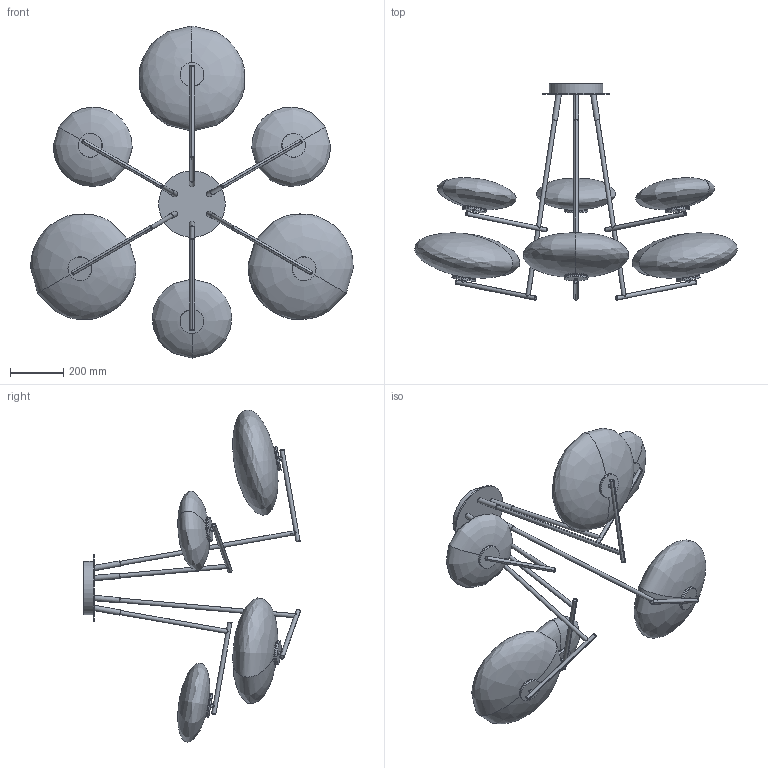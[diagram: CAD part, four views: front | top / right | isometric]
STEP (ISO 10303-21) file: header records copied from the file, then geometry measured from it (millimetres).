
FILE_DESCRIPTION(/* description */ (''),/* implementation_level */ '2;1');
FILE_NAME(/* name */ 'C:\Users\STEFANO\Desktop\3D SEM\1307-23 - MAMÌ SOSPENSIONE LARGE F.E\Assieme1.stp',/* time_stamp */ '2019-09-24T10:26:39+02:00',/* author */ ('STEFANO'),/* organization */ (''),/* preprocessor_version */ 'ST-DEVELOPER v17',/* originating_system */ 'Autodesk Inventor 2019',/* authorisation */ '');
FILE_SCHEMA (('AUTOMOTIVE_DESIGN { 1 0 10303 214 3 1 1 }'));
Length unit declared in the file: millimetre
Products named in the file (16): Assieme1; Parte1; Parte2; Parte3; Parte4; Parte5; Parte6; Parte7; Parte8; Parte9; Parte10; Parte11; Parte12; Parte13; Parte14; Parte15
Assembly tree (15 placements, depth 2):
  Assieme1
    Parte1
    Parte2
    Parte3
    Parte4
    Parte5
    Parte6
    Parte7
    Parte8
    Parte9
    Parte10
    Parte11
    Parte12
    Parte13
    Parte14
    Parte15
Bounding box: 1210.55 x 812.49 x 1246.4 mm (x, y, z)
Volume: 9244077.3 mm3; surface area: 3576487.9 mm2
Topology: 19 solids, 19 shells, 275 faces, 750 edges, 520 vertices
Faces by surface type: cylinder 128, plane 117, bspline 24, torus 6
Full cylindrical faces by diameter (mm): 9 x10, 12 x5, 16 x6, 20 x6, 75 x4, 85 x3, 87 x4, 89.5 x4, 200 x1, 250 x1
Entity records: 13451 total; most frequent: CARTESIAN_POINT 5488, DIRECTION 1620, ORIENTED_EDGE 1452, EDGE_CURVE 726, AXIS2_PLACEMENT_3D 678, VERTEX_POINT 520, EDGE_LOOP 318, CIRCLE 313
